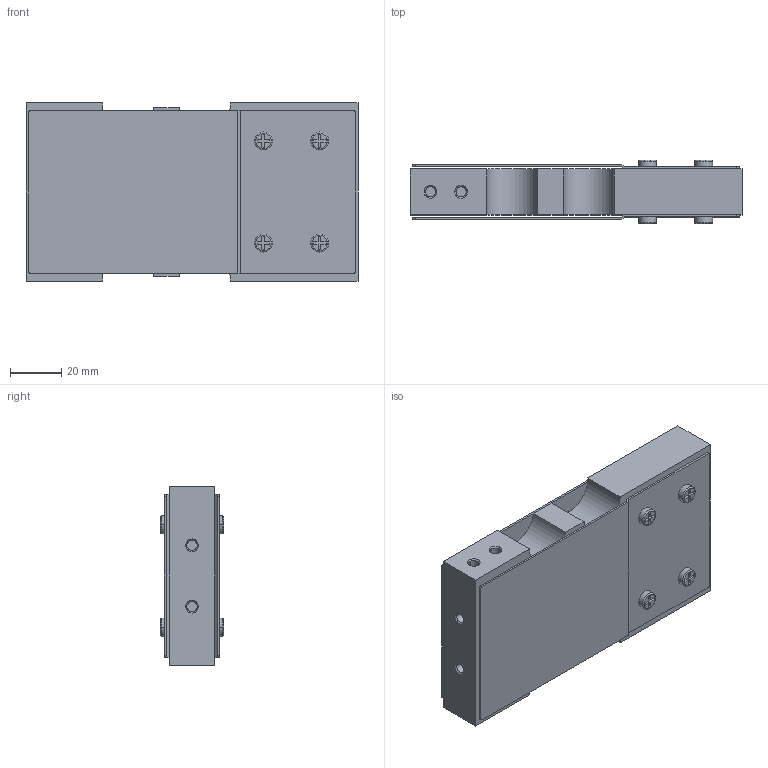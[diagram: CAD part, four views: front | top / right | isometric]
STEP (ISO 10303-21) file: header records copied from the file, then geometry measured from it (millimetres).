
FILE_DESCRIPTION((''),'1');
FILE_NAME('LCLJ_3-6-15_kg.step','2018-01-10T16:02:46',(''),(''),'','','');
FILE_SCHEMA(('AUTOMOTIVE_DESIGN { 1 0 10303 214 1 1 1 1 }'));
Products named in the file (13): LCLJ 3-6-15_kg; LCLJ body 01; LCLJ plate 01; LCLJ plate 02; LCLJ screw 01; LCLJ screw 02; LCLJ screw 03; LCLJ screw 04; LCLJ plate 04; LCLJ screw 05; LCLJ screw 06; LCLJ screw 07; LCLJ screw 08
Assembly tree (12 placements, depth 3):
  LCLJ 3-6-15_kg
    LCLJ body 01
    LCLJ plate 01
      LCLJ plate 02
      LCLJ screw 01
      LCLJ screw 02
      LCLJ screw 03
      LCLJ screw 04
      LCLJ plate 04
      LCLJ screw 05
      LCLJ screw 06
      LCLJ screw 07
      LCLJ screw 08
Bounding box: 130 x 24.8 x 70 mm (x, y, z)
Volume: 162588.4 mm3; surface area: 61245.3 mm2
Topology: 11 solids, 11 shells, 307 faces, 724 edges, 472 vertices
Faces by surface type: plane 179, cylinder 96, cone 16, torus 16
Entity records: 11685 total; most frequent: DIRECTION 1606, CARTESIAN_POINT 1517, ORIENTED_EDGE 1448, EDGE_CURVE 724, AXIS2_PLACEMENT_3D 561, LINE 484, VECTOR 484, VERTEX_POINT 472
